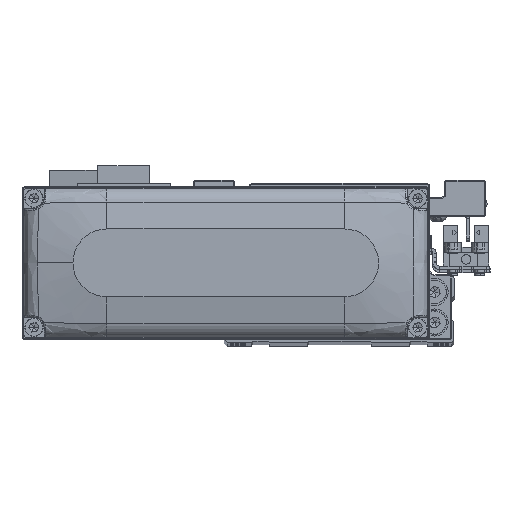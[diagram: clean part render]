
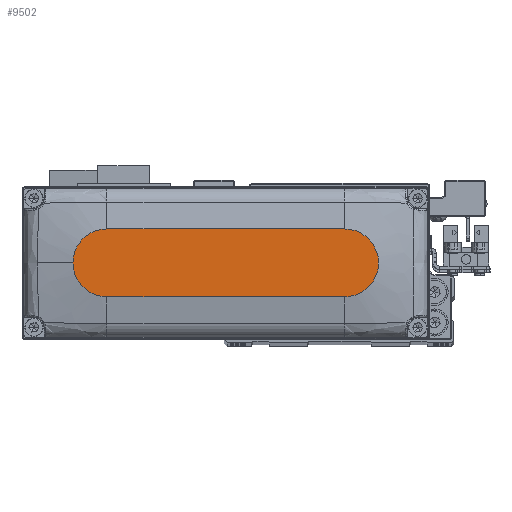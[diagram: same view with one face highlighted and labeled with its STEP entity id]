
A CAD part, top view. The second image highlights one B-rep face of the part: STEP entity #9502.
In plain terms, the highlighted planar face has unit normal (0, 0, 1).
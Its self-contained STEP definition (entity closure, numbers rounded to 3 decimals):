
#18 = DIRECTION ( 'NONE',  ( 1., 0., 0. ) ) ;
#1816 = DIRECTION ( 'NONE',  ( 0., 0., 1. ) ) ;
#3559 = LINE ( 'NONE', #15910, #21068 ) ;
#3612 = CARTESIAN_POINT ( 'NONE',  ( 0., 0., 28. ) ) ;
#4586 = CIRCLE ( 'NONE', #27213, 10. ) ;
#4654 = CIRCLE ( 'NONE', #27285, 10. ) ;
#7126 = EDGE_CURVE ( 'NONE', #36830, #27949, #4586, .T. ) ;
#9502 = ADVANCED_FACE ( 'NONE', ( #18974 ), #31357, .T. ) ;
#9836 = VERTEX_POINT ( 'NONE', #37440 ) ;
#9866 = EDGE_CURVE ( 'NONE', #9836, #30471, #3559, .T. ) ;
#10563 = VERTEX_POINT ( 'NONE', #23712 ) ;
#11200 = ORIENTED_EDGE ( 'NONE', *, *, #29195, .T. ) ;
#11305 = VECTOR ( 'NONE', #36519, 1000. ) ;
#11782 = LINE ( 'NONE', #24099, #11305 ) ;
#13847 = EDGE_LOOP ( 'NONE', ( #11200, #22533, #29085, #24379, #25446 ) ) ;
#13958 = AXIS2_PLACEMENT_3D ( 'NONE', #3612, #15959, #28330 ) ;
#13977 = CARTESIAN_POINT ( 'NONE',  ( -35., 0., 28. ) ) ;
#14167 = DIRECTION ( 'NONE',  ( 1., 0., 0. ) ) ;
#15403 = CARTESIAN_POINT ( 'NONE',  ( 35., 0., 28. ) ) ;
#15910 = CARTESIAN_POINT ( 'NONE',  ( -35., -10., 28. ) ) ;
#15959 = DIRECTION ( 'NONE',  ( 0., 0., 1. ) ) ;
#15960 = CARTESIAN_POINT ( 'NONE',  ( 35., 10., 28. ) ) ;
#17842 = CARTESIAN_POINT ( 'NONE',  ( 35., -10., 28. ) ) ;
#18246 = CARTESIAN_POINT ( 'NONE',  ( 45., 0., 28. ) ) ;
#18974 = FACE_OUTER_BOUND ( 'NONE', #13847, .T. ) ;
#21068 = VECTOR ( 'NONE', #28278, 1000. ) ;
#22287 = AXIS2_PLACEMENT_3D ( 'NONE', #13977, #26333, #38738 ) ;
#22533 = ORIENTED_EDGE ( 'NONE', *, *, #29540, .T. ) ;
#23712 = CARTESIAN_POINT ( 'NONE',  ( -35., 10., 28. ) ) ;
#24099 = CARTESIAN_POINT ( 'NONE',  ( -35., 10., 28. ) ) ;
#24379 = ORIENTED_EDGE ( 'NONE', *, *, #26488, .T. ) ;
#25446 = ORIENTED_EDGE ( 'NONE', *, *, #7126, .T. ) ;
#26333 = DIRECTION ( 'NONE',  ( 0., 0., 1. ) ) ;
#26488 = EDGE_CURVE ( 'NONE', #30471, #36830, #4654, .T. ) ;
#27213 = AXIS2_PLACEMENT_3D ( 'NONE', #15403, #27762, #18 ) ;
#27285 = AXIS2_PLACEMENT_3D ( 'NONE', #29572, #1816, #14167 ) ;
#27762 = DIRECTION ( 'NONE',  ( 0., 0., 1. ) ) ;
#27949 = VERTEX_POINT ( 'NONE', #15960 ) ;
#28278 = DIRECTION ( 'NONE',  ( 1., 0., 0. ) ) ;
#28330 = DIRECTION ( 'NONE',  ( 1., 0., 0. ) ) ;
#29085 = ORIENTED_EDGE ( 'NONE', *, *, #9866, .T. ) ;
#29195 = EDGE_CURVE ( 'NONE', #27949, #10563, #11782, .T. ) ;
#29540 = EDGE_CURVE ( 'NONE', #10563, #9836, #39825, .T. ) ;
#29572 = CARTESIAN_POINT ( 'NONE',  ( 35., 0., 28. ) ) ;
#30471 = VERTEX_POINT ( 'NONE', #17842 ) ;
#31357 = PLANE ( 'NONE',  #13958 ) ;
#36519 = DIRECTION ( 'NONE',  ( -1., 0., 0. ) ) ;
#36830 = VERTEX_POINT ( 'NONE', #18246 ) ;
#37440 = CARTESIAN_POINT ( 'NONE',  ( -35., -10., 28. ) ) ;
#38738 = DIRECTION ( 'NONE',  ( 1., 0., 0. ) ) ;
#39825 = CIRCLE ( 'NONE', #22287, 10. ) ;
